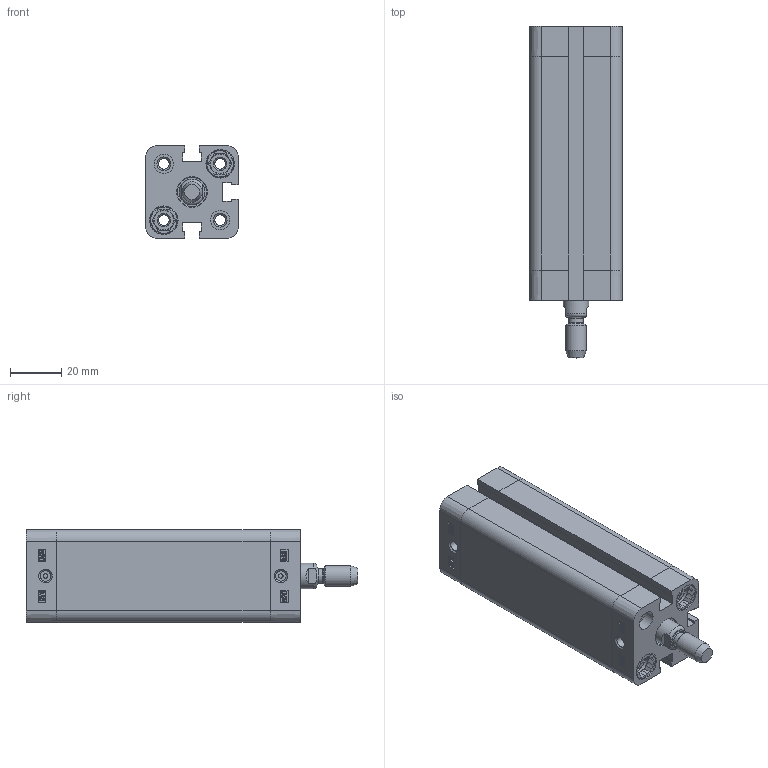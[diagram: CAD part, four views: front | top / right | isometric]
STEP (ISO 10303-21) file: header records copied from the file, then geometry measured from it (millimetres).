
FILE_DESCRIPTION((''),'2;1');
FILE_NAME('T:\Archivio Inventor\- CATALOGHI 2012\SERIE P - NUOVA\PDM\PDM020\PDM020.---.GS.M\STEP\PDM020.70.GS.M.stp','2013-01-30T10:57:56',('Administrator'),(''),'Autodesk Inventor 2012','Autodesk Inventor 2012','');
FILE_SCHEMA(('CONFIG_CONTROL_DESIGN'));
Length unit declared in the file: millimetre
Products named in the file (1): PDM020.70.GS.M
Bounding box: 36.3 x 129.6 x 36.3 mm (x, y, z)
Volume: 74528.7 mm3; surface area: 42798.3 mm2
Topology: 1 solids, 3 shells, 489 faces, 1225 edges, 798 vertices
Faces by surface type: plane 245, bspline 94, cylinder 88, cone 50, torus 12
Full cylindrical faces by diameter (mm): 1.75 x2, 4.134 x10, 5.8 x1, 7.5 x4, 7.55 x2, 8 x9, 9 x1, 10 x1, 10.8 x4, 11.1 x4, 11.4 x1, 20 x1, 22.3 x1, 22.5 x1
Entity records: 15051 total; most frequent: CARTESIAN_POINT 3734, ORIENTED_EDGE 2232, DIRECTION 1950, EDGE_CURVE 1116, VERTEX_POINT 782, VECTOR 670, LINE 670, EDGE_LOOP 652
